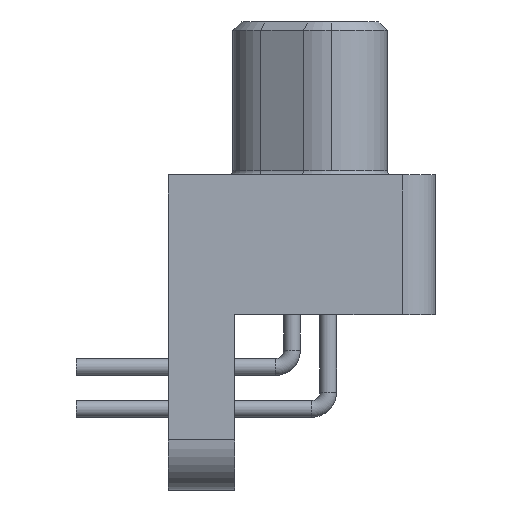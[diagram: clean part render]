
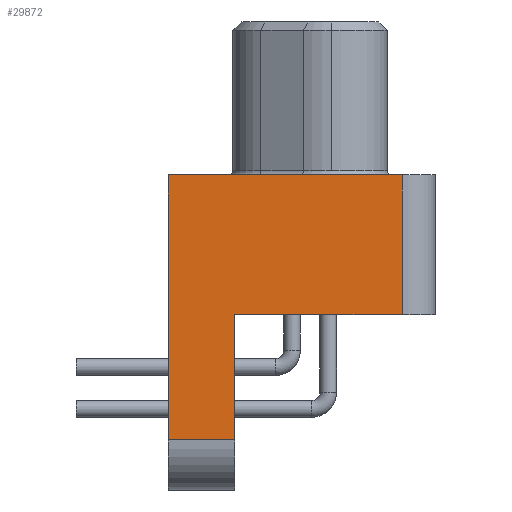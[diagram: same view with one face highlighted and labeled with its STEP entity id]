
A CAD part, left-side view. The second image highlights one B-rep face of the part: STEP entity #29872.
In plain terms, the highlighted planar face has unit normal (-1, 0, 0).
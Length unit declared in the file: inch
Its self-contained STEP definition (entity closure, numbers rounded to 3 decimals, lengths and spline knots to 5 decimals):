
#476 = CARTESIAN_POINT ( 'NONE',  ( -0.6625, -0.11, -0.125 ) ) ;
#948 = DIRECTION ( 'NONE',  ( 0., 0., 1. ) ) ;
#1086 = DIRECTION ( 'NONE',  ( 0., 0., -1. ) ) ;
#1179 = ORIENTED_EDGE ( 'NONE', *, *, #2427, .T. ) ;
#1525 = CARTESIAN_POINT ( 'NONE',  ( -0.6625, -0.11, 0.042 ) ) ;
#2427 = EDGE_CURVE ( 'NONE', #40238, #40448, #25226, .T. ) ;
#3602 = DIRECTION ( 'NONE',  ( -1., 0., 0. ) ) ;
#4110 = VECTOR ( 'NONE', #20141, 39.37008 ) ;
#4906 = ORIENTED_EDGE ( 'NONE', *, *, #22721, .F. ) ;
#6509 = LINE ( 'NONE', #32819, #41813 ) ;
#6544 = CARTESIAN_POINT ( 'NONE',  ( -0.6625, 0.17, -0.275 ) ) ;
#6628 = VECTOR ( 'NONE', #24679, 39.37008 ) ;
#7579 = LINE ( 'NONE', #14528, #6628 ) ;
#7995 = CARTESIAN_POINT ( 'NONE',  ( -0.6625, -0.11, 0.042 ) ) ;
#8655 = ORIENTED_EDGE ( 'NONE', *, *, #9888, .T. ) ;
#9372 = LINE ( 'NONE', #1525, #41716 ) ;
#9888 = EDGE_CURVE ( 'NONE', #40448, #36948, #6509, .T. ) ;
#10735 = EDGE_CURVE ( 'NONE', #36948, #40742, #7579, .T. ) ;
#10835 = ORIENTED_EDGE ( 'NONE', *, *, #28044, .T. ) ;
#12391 = CARTESIAN_POINT ( 'NONE',  ( -0.6625, 0.17, 0.042 ) ) ;
#14528 = CARTESIAN_POINT ( 'NONE',  ( -0.6625, -0.11, -0.125 ) ) ;
#15886 = VERTEX_POINT ( 'NONE', #7995 ) ;
#16341 = DIRECTION ( 'NONE',  ( 0., 0., 1. ) ) ;
#17621 = VERTEX_POINT ( 'NONE', #12391 ) ;
#17772 = CARTESIAN_POINT ( 'NONE',  ( -0.6625, -0.11, 0.042 ) ) ;
#18666 = DIRECTION ( 'NONE',  ( 0., -1., 0. ) ) ;
#19690 = DIRECTION ( 'NONE',  ( 0., 1., 0. ) ) ;
#20141 = DIRECTION ( 'NONE',  ( 0., 0., 1. ) ) ;
#21293 = CARTESIAN_POINT ( 'NONE',  ( -0.6625, 0.09, -0.125 ) ) ;
#21883 = VECTOR ( 'NONE', #1086, 39.37008 ) ;
#22721 = EDGE_CURVE ( 'NONE', #40238, #17621, #24029, .T. ) ;
#24029 = LINE ( 'NONE', #26676, #4110 ) ;
#24550 = LINE ( 'NONE', #17772, #21883 ) ;
#24679 = DIRECTION ( 'NONE',  ( 0., -1., 0. ) ) ;
#25226 = LINE ( 'NONE', #28523, #27420 ) ;
#26419 = FACE_OUTER_BOUND ( 'NONE', #43484, .T. ) ;
#26676 = CARTESIAN_POINT ( 'NONE',  ( -0.6625, 0.17, -0.335 ) ) ;
#27420 = VECTOR ( 'NONE', #18666, 39.37008 ) ;
#27484 = CARTESIAN_POINT ( 'NONE',  ( -0.6625, 0.11, 0.042 ) ) ;
#28044 = EDGE_CURVE ( 'NONE', #15886, #17621, #9372, .T. ) ;
#28523 = CARTESIAN_POINT ( 'NONE',  ( -0.6625, 0.09, -0.275 ) ) ;
#29747 = ORIENTED_EDGE ( 'NONE', *, *, #33235, .F. ) ;
#29872 = ADVANCED_FACE ( 'NONE', ( #26419 ), #39867, .T. ) ;
#29907 = ORIENTED_EDGE ( 'NONE', *, *, #10735, .T. ) ;
#32819 = CARTESIAN_POINT ( 'NONE',  ( -0.6625, 0.09, -0.335 ) ) ;
#33235 = EDGE_CURVE ( 'NONE', #15886, #40742, #24550, .T. ) ;
#36948 = VERTEX_POINT ( 'NONE', #21293 ) ;
#39039 = AXIS2_PLACEMENT_3D ( 'NONE', #27484, #3602, #948 ) ;
#39867 = PLANE ( 'NONE',  #39039 ) ;
#40238 = VERTEX_POINT ( 'NONE', #6544 ) ;
#40448 = VERTEX_POINT ( 'NONE', #42526 ) ;
#40742 = VERTEX_POINT ( 'NONE', #476 ) ;
#41716 = VECTOR ( 'NONE', #19690, 39.37008 ) ;
#41813 = VECTOR ( 'NONE', #16341, 39.37008 ) ;
#42526 = CARTESIAN_POINT ( 'NONE',  ( -0.6625, 0.09, -0.275 ) ) ;
#43484 = EDGE_LOOP ( 'NONE', ( #4906, #1179, #8655, #29907, #29747, #10835 ) ) ;
